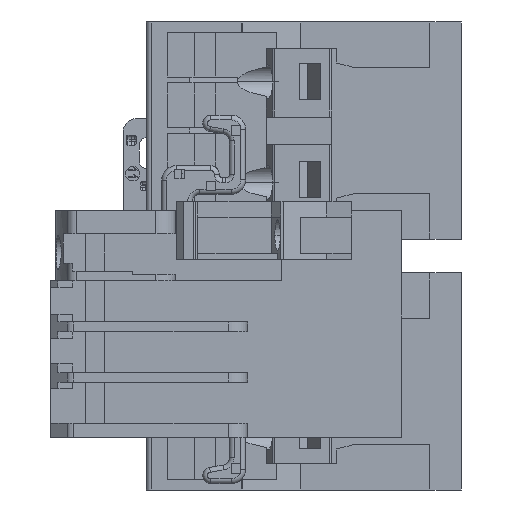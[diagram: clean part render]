
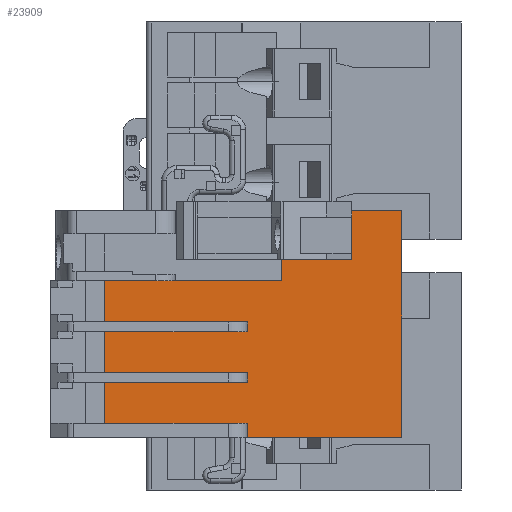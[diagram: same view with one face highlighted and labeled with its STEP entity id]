
A CAD part, left-side view. The second image highlights one B-rep face of the part: STEP entity #23909.
In plain terms, the highlighted planar face has unit normal (-1, 0, 0) as drawn and (0, -1, 0) by its records, which use the part's own axes.
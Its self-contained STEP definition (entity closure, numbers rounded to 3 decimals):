
#410 = VECTOR ( 'NONE', #83243, 1000. ) ;
#933 = CARTESIAN_POINT ( 'NONE',  ( 36.424, -29.454, -7.063 ) ) ;
#1431 = VECTOR ( 'NONE', #29796, 1000. ) ;
#1695 = CARTESIAN_POINT ( 'NONE',  ( 2.474, -29.454, -5.833 ) ) ;
#2065 = EDGE_CURVE ( 'NONE', #58898, #11398, #20707, .T. ) ;
#2880 = CARTESIAN_POINT ( 'NONE',  ( -0.476, -29.454, -5.833 ) ) ;
#2931 = EDGE_CURVE ( 'NONE', #75493, #44480, #67098, .T. ) ;
#3175 = EDGE_CURVE ( 'NONE', #73807, #58898, #20548, .T. ) ;
#3365 = VECTOR ( 'NONE', #15860, 1000. ) ;
#4149 = VERTEX_POINT ( 'NONE', #65078 ) ;
#4640 = CARTESIAN_POINT ( 'NONE',  ( -0.476, -29.454, -12.833 ) ) ;
#4766 = VECTOR ( 'NONE', #7407, 1000. ) ;
#5619 = ORIENTED_EDGE ( 'NONE', *, *, #35754, .T. ) ;
#6182 = EDGE_CURVE ( 'NONE', #44480, #25070, #56164, .T. ) ;
#6650 = VECTOR ( 'NONE', #64371, 1000. ) ;
#7407 = DIRECTION ( 'NONE',  ( 0., 0., -1. ) ) ;
#8038 = DIRECTION ( 'NONE',  ( -1., 0., 0. ) ) ;
#8388 = CARTESIAN_POINT ( 'NONE',  ( -0.476, -29.454, -37.833 ) ) ;
#8984 = ORIENTED_EDGE ( 'NONE', *, *, #12472, .T. ) ;
#9245 = VERTEX_POINT ( 'NONE', #30216 ) ;
#9274 = VECTOR ( 'NONE', #13140, 1000. ) ;
#10434 = EDGE_LOOP ( 'NONE', ( #8984, #42603, #50420, #43838, #52442, #27475, #72776, #65897, #5619, #32150, #75025, #71722, #79665, #62313, #13787, #15974, #58913, #15980, #44542 ) ) ;
#11398 = VERTEX_POINT ( 'NONE', #14238 ) ;
#11770 = EDGE_CURVE ( 'NONE', #71882, #73717, #37249, .T. ) ;
#12472 = EDGE_CURVE ( 'NONE', #73882, #76306, #46732, .T. ) ;
#12529 = VECTOR ( 'NONE', #56192, 1000. ) ;
#13140 = DIRECTION ( 'NONE',  ( -1., 0., 0. ) ) ;
#13658 = VECTOR ( 'NONE', #8038, 1000. ) ;
#13787 = ORIENTED_EDGE ( 'NONE', *, *, #2931, .T. ) ;
#13802 = CARTESIAN_POINT ( 'NONE',  ( 31.974, -29.454, 9.459 ) ) ;
#14238 = CARTESIAN_POINT ( 'NONE',  ( 21.474, -29.454, 23.767 ) ) ;
#14972 = CARTESIAN_POINT ( 'NONE',  ( 12.974, -29.454, -37.833 ) ) ;
#15860 = DIRECTION ( 'NONE',  ( -1., 0., 0. ) ) ;
#15974 = ORIENTED_EDGE ( 'NONE', *, *, #6182, .T. ) ;
#15980 = ORIENTED_EDGE ( 'NONE', *, *, #72695, .T. ) ;
#17220 = LINE ( 'NONE', #35991, #49523 ) ;
#18356 = VECTOR ( 'NONE', #53640, 1000. ) ;
#18691 = VECTOR ( 'NONE', #72685, 1000. ) ;
#19723 = DIRECTION ( 'NONE',  ( 1., 0., 0. ) ) ;
#20046 = VECTOR ( 'NONE', #63367, 1000. ) ;
#20548 = LINE ( 'NONE', #2880, #3365 ) ;
#20707 = LINE ( 'NONE', #20915, #18691 ) ;
#20915 = CARTESIAN_POINT ( 'NONE',  ( 21.474, -29.454, -37.833 ) ) ;
#21374 = EDGE_CURVE ( 'NONE', #71865, #75493, #30897, .T. ) ;
#23909 = ADVANCED_FACE ( 'NONE', ( #81191 ), #39800, .T. ) ;
#24411 = DIRECTION ( 'NONE',  ( 0., 0., -1. ) ) ;
#24926 = CARTESIAN_POINT ( 'NONE',  ( 23.474, -29.454, -37.833 ) ) ;
#25070 = VERTEX_POINT ( 'NONE', #68983 ) ;
#25678 = CARTESIAN_POINT ( 'NONE',  ( -0.476, -29.454, 23.767 ) ) ;
#26134 = DIRECTION ( 'NONE',  ( 0., 0., 1. ) ) ;
#26529 = LINE ( 'NONE', #58070, #9274 ) ;
#27054 = CARTESIAN_POINT ( 'NONE',  ( 21.474, -29.454, -5.833 ) ) ;
#27168 = VECTOR ( 'NONE', #47109, 1000. ) ;
#27286 = CARTESIAN_POINT ( 'NONE',  ( 46.524, -29.454, -37.833 ) ) ;
#27475 = ORIENTED_EDGE ( 'NONE', *, *, #11770, .T. ) ;
#29027 = LINE ( 'NONE', #53987, #78656 ) ;
#29796 = DIRECTION ( 'NONE',  ( 0., 0., 1. ) ) ;
#30216 = CARTESIAN_POINT ( 'NONE',  ( -0.476, -29.454, -5.833 ) ) ;
#30897 = LINE ( 'NONE', #46766, #13658 ) ;
#32150 = ORIENTED_EDGE ( 'NONE', *, *, #3175, .T. ) ;
#33570 = DIRECTION ( 'NONE',  ( 0., -1., 0. ) ) ;
#34052 = CARTESIAN_POINT ( 'NONE',  ( 46.524, -29.454, -27.433 ) ) ;
#34786 = DIRECTION ( 'NONE',  ( 0., 0., 1. ) ) ;
#35754 = EDGE_CURVE ( 'NONE', #41213, #73807, #71262, .T. ) ;
#35991 = CARTESIAN_POINT ( 'NONE',  ( -0.476, -29.454, 23.767 ) ) ;
#36844 = CARTESIAN_POINT ( 'NONE',  ( 12.974, -29.454, -5.833 ) ) ;
#37249 = LINE ( 'NONE', #50345, #20046 ) ;
#37850 = LINE ( 'NONE', #75057, #1431 ) ;
#38116 = LINE ( 'NONE', #82445, #53204 ) ;
#38356 = CARTESIAN_POINT ( 'NONE',  ( 31.974, -29.454, 23.767 ) ) ;
#39800 = PLANE ( 'NONE',  #71178 ) ;
#41213 = VERTEX_POINT ( 'NONE', #64279 ) ;
#42459 = DIRECTION ( 'NONE',  ( -1., 0., 0. ) ) ;
#42603 = ORIENTED_EDGE ( 'NONE', *, *, #61186, .T. ) ;
#43565 = VERTEX_POINT ( 'NONE', #54362 ) ;
#43838 = ORIENTED_EDGE ( 'NONE', *, *, #78491, .F. ) ;
#44480 = VERTEX_POINT ( 'NONE', #53041 ) ;
#44542 = ORIENTED_EDGE ( 'NONE', *, *, #77582, .T. ) ;
#45484 = DIRECTION ( 'NONE',  ( -1., 0., 0. ) ) ;
#46732 = LINE ( 'NONE', #58417, #77193 ) ;
#46766 = CARTESIAN_POINT ( 'NONE',  ( -0.476, -29.454, -5.833 ) ) ;
#46818 = LINE ( 'NONE', #65007, #81330 ) ;
#47109 = DIRECTION ( 'NONE',  ( 0., 0., -1. ) ) ;
#49523 = VECTOR ( 'NONE', #42459, 1000. ) ;
#49713 = CARTESIAN_POINT ( 'NONE',  ( 8.298, -29.454, -27.433 ) ) ;
#49815 = DIRECTION ( 'NONE',  ( -1., 0., 0. ) ) ;
#49882 = VECTOR ( 'NONE', #26134, 1000. ) ;
#49922 = VERTEX_POINT ( 'NONE', #65711 ) ;
#50345 = CARTESIAN_POINT ( 'NONE',  ( 31.974, -29.454, -37.833 ) ) ;
#50420 = ORIENTED_EDGE ( 'NONE', *, *, #50786, .F. ) ;
#50786 = EDGE_CURVE ( 'NONE', #49922, #80243, #66125, .T. ) ;
#51746 = CARTESIAN_POINT ( 'NONE',  ( 31.974, -29.454, -12.833 ) ) ;
#52442 = ORIENTED_EDGE ( 'NONE', *, *, #60539, .T. ) ;
#52455 = VERTEX_POINT ( 'NONE', #38356 ) ;
#53041 = CARTESIAN_POINT ( 'NONE',  ( 10.974, -29.454, 23.767 ) ) ;
#53204 = VECTOR ( 'NONE', #24411, 1000. ) ;
#53543 = LINE ( 'NONE', #14972, #18356 ) ;
#53640 = DIRECTION ( 'NONE',  ( 0., 0., -1. ) ) ;
#53987 = CARTESIAN_POINT ( 'NONE',  ( 46.524, -29.454, -37.833 ) ) ;
#54362 = CARTESIAN_POINT ( 'NONE',  ( 12.974, -29.454, 23.767 ) ) ;
#56164 = LINE ( 'NONE', #25678, #6650 ) ;
#56192 = DIRECTION ( 'NONE',  ( 1., 0., 0. ) ) ;
#56290 = LINE ( 'NONE', #933, #4766 ) ;
#58070 = CARTESIAN_POINT ( 'NONE',  ( -0.476, -29.454, -5.833 ) ) ;
#58306 = CARTESIAN_POINT ( 'NONE',  ( 10.974, -29.454, -37.833 ) ) ;
#58417 = CARTESIAN_POINT ( 'NONE',  ( -0.476, -29.454, -37.833 ) ) ;
#58898 = VERTEX_POINT ( 'NONE', #27054 ) ;
#58913 = ORIENTED_EDGE ( 'NONE', *, *, #76583, .T. ) ;
#59549 = CARTESIAN_POINT ( 'NONE',  ( 23.474, -29.454, -5.833 ) ) ;
#60539 = EDGE_CURVE ( 'NONE', #4149, #71882, #69605, .T. ) ;
#61186 = EDGE_CURVE ( 'NONE', #76306, #80243, #29027, .T. ) ;
#62313 = ORIENTED_EDGE ( 'NONE', *, *, #21374, .T. ) ;
#63288 = VERTEX_POINT ( 'NONE', #1695 ) ;
#63367 = DIRECTION ( 'NONE',  ( 0., 0., 1. ) ) ;
#64279 = CARTESIAN_POINT ( 'NONE',  ( 23.474, -29.454, 23.767 ) ) ;
#64371 = DIRECTION ( 'NONE',  ( -1., 0., 0. ) ) ;
#65007 = CARTESIAN_POINT ( 'NONE',  ( -0.476, -29.454, 23.767 ) ) ;
#65078 = CARTESIAN_POINT ( 'NONE',  ( 36.424, -29.454, -12.833 ) ) ;
#65711 = CARTESIAN_POINT ( 'NONE',  ( 36.424, -29.454, -27.433 ) ) ;
#65897 = ORIENTED_EDGE ( 'NONE', *, *, #74331, .T. ) ;
#66125 = LINE ( 'NONE', #49713, #12529 ) ;
#67098 = LINE ( 'NONE', #58306, #49882 ) ;
#68574 = EDGE_CURVE ( 'NONE', #43565, #71865, #53543, .T. ) ;
#68983 = CARTESIAN_POINT ( 'NONE',  ( 2.474, -29.454, 23.767 ) ) ;
#69605 = LINE ( 'NONE', #4640, #73690 ) ;
#70275 = EDGE_CURVE ( 'NONE', #73717, #52455, #37850, .T. ) ;
#71178 = AXIS2_PLACEMENT_3D ( 'NONE', #72382, #33570, #78907 ) ;
#71262 = LINE ( 'NONE', #24926, #410 ) ;
#71722 = ORIENTED_EDGE ( 'NONE', *, *, #81163, .T. ) ;
#71865 = VERTEX_POINT ( 'NONE', #36844 ) ;
#71882 = VERTEX_POINT ( 'NONE', #51746 ) ;
#72382 = CARTESIAN_POINT ( 'NONE',  ( -0.476, -29.454, -37.833 ) ) ;
#72685 = DIRECTION ( 'NONE',  ( 0., 0., 1. ) ) ;
#72695 = EDGE_CURVE ( 'NONE', #63288, #9245, #26529, .T. ) ;
#72776 = ORIENTED_EDGE ( 'NONE', *, *, #70275, .T. ) ;
#73690 = VECTOR ( 'NONE', #49815, 1000. ) ;
#73717 = VERTEX_POINT ( 'NONE', #13802 ) ;
#73807 = VERTEX_POINT ( 'NONE', #59549 ) ;
#73882 = VERTEX_POINT ( 'NONE', #80295 ) ;
#74331 = EDGE_CURVE ( 'NONE', #52455, #41213, #17220, .T. ) ;
#75025 = ORIENTED_EDGE ( 'NONE', *, *, #2065, .T. ) ;
#75057 = CARTESIAN_POINT ( 'NONE',  ( 31.974, -29.454, -37.833 ) ) ;
#75232 = CARTESIAN_POINT ( 'NONE',  ( 10.974, -29.454, -5.833 ) ) ;
#75493 = VERTEX_POINT ( 'NONE', #75232 ) ;
#76306 = VERTEX_POINT ( 'NONE', #27286 ) ;
#76583 = EDGE_CURVE ( 'NONE', #25070, #63288, #38116, .T. ) ;
#76776 = LINE ( 'NONE', #8388, #27168 ) ;
#77193 = VECTOR ( 'NONE', #19723, 1000. ) ;
#77582 = EDGE_CURVE ( 'NONE', #9245, #73882, #76776, .T. ) ;
#78491 = EDGE_CURVE ( 'NONE', #4149, #49922, #56290, .T. ) ;
#78656 = VECTOR ( 'NONE', #34786, 1000. ) ;
#78907 = DIRECTION ( 'NONE',  ( 0., 0., -1. ) ) ;
#79665 = ORIENTED_EDGE ( 'NONE', *, *, #68574, .T. ) ;
#80243 = VERTEX_POINT ( 'NONE', #34052 ) ;
#80295 = CARTESIAN_POINT ( 'NONE',  ( -0.476, -29.454, -37.833 ) ) ;
#81163 = EDGE_CURVE ( 'NONE', #11398, #43565, #46818, .T. ) ;
#81191 = FACE_OUTER_BOUND ( 'NONE', #10434, .T. ) ;
#81330 = VECTOR ( 'NONE', #45484, 1000. ) ;
#82445 = CARTESIAN_POINT ( 'NONE',  ( 2.474, -29.454, -37.833 ) ) ;
#83243 = DIRECTION ( 'NONE',  ( 0., 0., -1. ) ) ;
